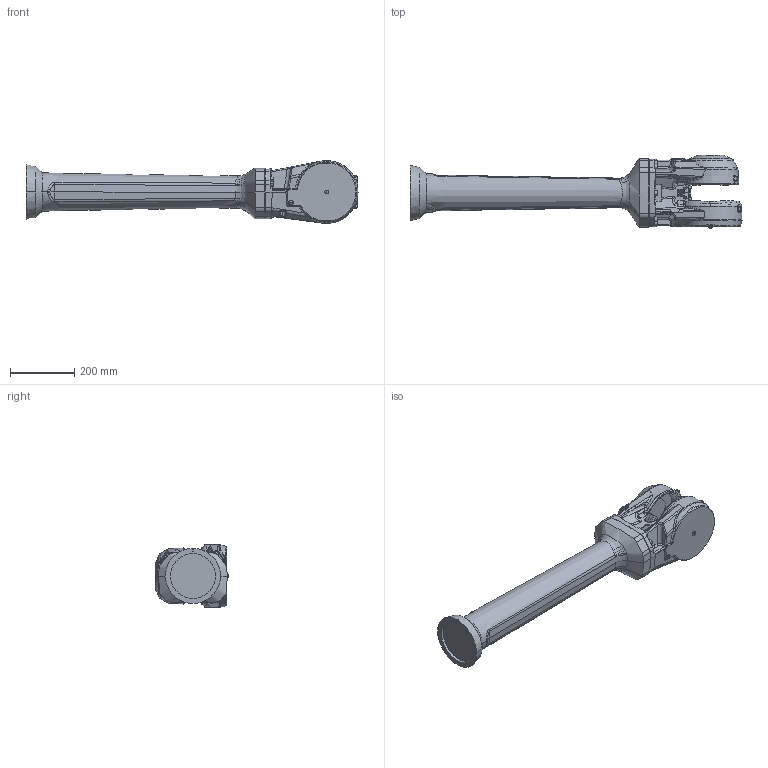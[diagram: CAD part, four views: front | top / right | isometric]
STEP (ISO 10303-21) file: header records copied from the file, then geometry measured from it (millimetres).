
FILE_DESCRIPTION (( 'STEP AP214' ), '1' );
FILE_NAME ('IRB4600_40-255_link4_CAD_03.STEP', '2012-06-25T08:54:05', ( 'ABB' ), ( 'ABB' ), 'SwSTEP 2.0', 'SolidWorks 2010', '' );
FILE_SCHEMA (( 'AUTOMOTIVE_DESIGN' ));
Length unit declared in the file: millimetre
Products named in the file (1): IRB4600_40-255_link4_CAD_03
Bounding box: 1036.5 x 228.1 x 196 mm (x, y, z)
Volume: 13927700.7 mm3; surface area: 635343.2 mm2
Topology: 1 solids, 1 shells, 715 faces, 1833 edges, 1128 vertices
Faces by surface type: bspline 237, cylinder 214, plane 180, cone 49, torus 28, sphere 7
Entity records: 42651 total; most frequent: CARTESIAN_POINT 27443, ORIENTED_EDGE 3624, DIRECTION 2614, EDGE_CURVE 1812, VERTEX_POINT 1126, AXIS2_PLACEMENT_3D 1036, EDGE_LOOP 746, FACE_OUTER_BOUND 715
